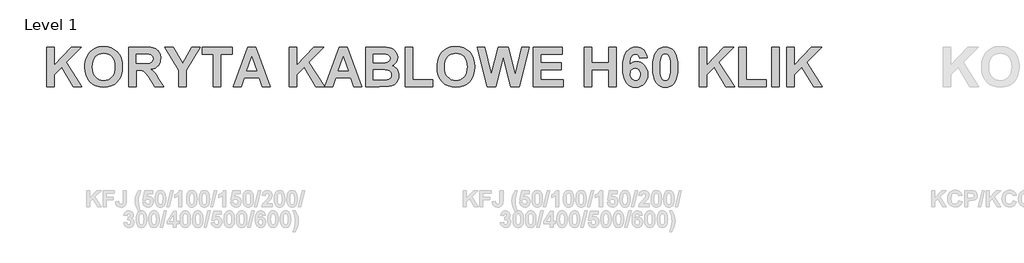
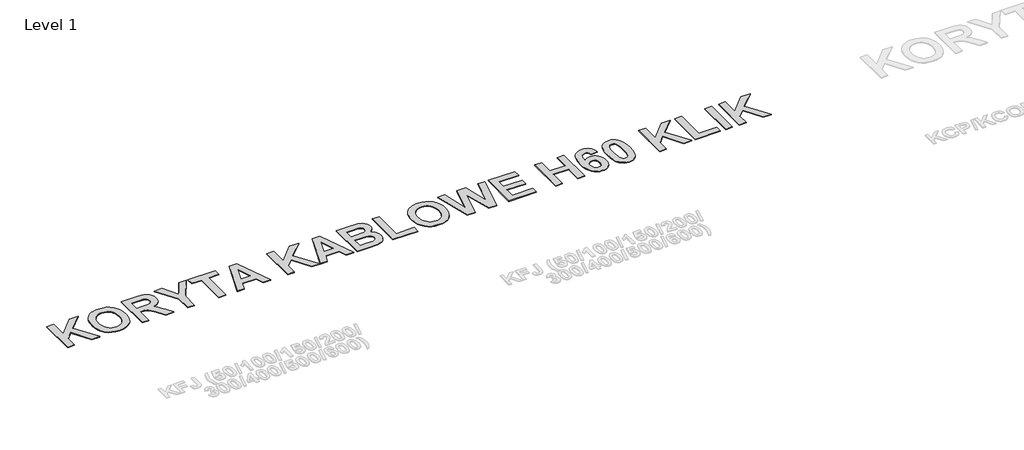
# One storey, part 13 of 42: 1 proxy.
"""IFC4 building model written with IfcOpenShell, lengths in millimetres."""

import ifcopenshell
import ifcopenshell.guid

model = None  # the IFC model being written
_history = None  # IfcOwnerHistory: only IFC2X3 demands one
_inside = {}  # id of a spatial element -> (the spatial element, [elements in it])
_under = {}  # id of a project, library or spatial element -> (it, [spatial elements below it])
_declared = {}  # id of a project -> (the project, [libraries it declares])
_typed = {}  # id of a type object -> (the type object, [elements of that type])
_made_of = {}  # id of a material, layer set ... -> (it, [elements and type objects made of it])


def new_model(schema):
    """Start an empty IFC model of exactly this schema.

    Asked for "IFC4X3", IfcOpenShell would pick the latest addendum, in which some entities
    have other attributes; the version numbers below select the first issue.
    IFC2X3 requires an IfcOwnerHistory on every rooted entity: one is made here for all.
    """
    global model, _history
    if schema == "IFC4X3":
        model = ifcopenshell.file(schema_version=(4, 3, 0, 0))
    else:
        model = ifcopenshell.file(schema=schema)
    _inside.clear()
    _under.clear()
    _declared.clear()
    _typed.clear()
    _made_of.clear()
    _history = None
    if model.schema == "IFC2X3":
        org = make("IfcOrganization", Name="unknown")
        user = make(
            "IfcPersonAndOrganization",
            ThePerson=make("IfcPerson", FamilyName="unknown"),
            TheOrganization=org,
        )
        app = make(
            "IfcApplication",
            ApplicationDeveloper=org,
            Version="unknown",
            ApplicationFullName="unknown",
            ApplicationIdentifier="unknown",
        )
        _history = make(
            "IfcOwnerHistory",
            OwningUser=user,
            OwningApplication=app,
            ChangeAction="ADDED",
            CreationDate=0,
        )
    return model


def make(cls, **values):
    """One entity of the class cls with the attributes given. An attribute that is None is left unset."""
    return model.create_entity(
        cls, **{name: value for name, value in values.items() if value is not None}
    )


def rooted(cls, **values):
    """An entity with a GlobalId (a new one), such as an element, a storey or a relation."""
    return make(cls, GlobalId=ifcopenshell.guid.new(), OwnerHistory=_history, **values)


def si_unit(unit_type, name, prefix=None):
    """IfcSIUnit, for example si_unit("LENGTHUNIT", "METRE", prefix="MILLI")."""
    return make("IfcSIUnit", UnitType=unit_type, Prefix=prefix, Name=name)


def assignment(units):
    """IfcUnitAssignment: the units of a project."""
    return None if units is None else make("IfcUnitAssignment", Units=units)


def point(xyz):
    """IfcCartesianPoint."""
    return None if xyz is None else make("IfcCartesianPoint", Coordinates=xyz)


def direction(xyz):
    """IfcDirection."""
    return None if xyz is None else make("IfcDirection", DirectionRatios=xyz)


def frame(location, z_axis=None, x_axis=None):
    """IfcAxis2Placement3D, a coordinate frame: its origin and axes. An axis left out is left unset."""
    return make(
        "IfcAxis2Placement3D",
        Location=point(location),
        Axis=direction(z_axis),
        RefDirection=direction(x_axis),
    )


def origin():
    """The frame at (0, 0, 0) with its axes left unset."""
    return frame((0.0, 0.0, 0.0))


def origin_with_axes():
    """The frame at (0, 0, 0) with the z axis (0, 0, 1) and the x axis (1, 0, 0) written out."""
    return frame((0.0, 0.0, 0.0), z_axis=(0.0, 0.0, 1.0), x_axis=(1.0, 0.0, 0.0))


def place(relative_to, where):
    """IfcLocalPlacement: puts the frame where relative to a parent placement (None: the world)."""
    return make(
        "IfcLocalPlacement", PlacementRelTo=relative_to, RelativePlacement=where
    )


def context(
    kind, dimensions, precision=None, world=None, true_north=None, identifier=None
):
    """IfcGeometricRepresentationContext, for example the 3D "Model" context."""
    return make(
        "IfcGeometricRepresentationContext",
        ContextIdentifier=identifier,
        ContextType=kind,
        CoordinateSpaceDimension=dimensions,
        Precision=precision,
        WorldCoordinateSystem=world,
        TrueNorth=true_north,
    )


def project(units=None, contexts=None):
    """IfcProject with its units and contexts."""
    return rooted(
        "IfcProject",
        Name="project",
        RepresentationContexts=contexts,
        UnitsInContext=assignment(units),
    )


def spatial(cls, under=None, at=None, **own):
    """A site, building, storey or space (cls), placed at a placement, below another one or the project."""
    s = rooted(cls, ObjectPlacement=at, **own)
    if under is not None:
        _under.setdefault(under.id(), (under, []))[1].append(s)
    return s


def polyline(points):
    """IfcPolyline through the points."""
    return make("IfcPolyline", Points=[point(p) for p in points])


def outline(outer, holes=None, kind="AREA"):
    """IfcArbitraryClosedProfileDef: a profile drawn as a closed curve; with holes, ...WithVoids."""
    if holes is None:
        return make("IfcArbitraryClosedProfileDef", ProfileType=kind, OuterCurve=outer)
    return make(
        "IfcArbitraryProfileDefWithVoids",
        ProfileType=kind,
        OuterCurve=outer,
        InnerCurves=holes,
    )


def extrude(swept, where, along, depth):
    """IfcExtrudedAreaSolid: the profile swept, set in the frame where, extruded along a direction by depth."""
    return make(
        "IfcExtrudedAreaSolid",
        SweptArea=swept,
        Position=where,
        ExtrudedDirection=direction(along),
        Depth=depth,
    )


def shape(context_of_items, identifier, shape_type, items):
    """IfcShapeRepresentation: the items that make up one representation, for example the "Body"."""
    return make(
        "IfcShapeRepresentation",
        ContextOfItems=context_of_items,
        RepresentationIdentifier=identifier,
        RepresentationType=shape_type,
        Items=items,
    )


def made_of(thing, what):
    """Note that an element or type object is made of a material, layer set ...; save() writes the relation."""
    if what is not None:
        _made_of.setdefault(what.id(), (what, []))[1].append(thing)
    return thing


def element(
    cls,
    number,
    at=None,
    inside=None,
    cuts=None,
    type_object=None,
    material=None,
    context=None,
    identifier="Body",
    shape_type=None,
    held_by="IfcProductDefinitionShape",
    body=None,
    shapes=None,
    **own,
):
    """One element of the class cls, such as IfcWall. Its Tag is "e" and its number.

    at: its placement. inside: the storey or other place that contains it. cuts: it is an
    opening in that element (IfcRelVoidsElement). A single representation is given by context,
    identifier, shape_type and body (its items); several are given by shapes. held_by: the class
    of the entity that holds the representations. save() writes the other relations.
    """
    e = rooted(cls, Tag="e%d" % number, ObjectPlacement=at, **own)
    if body is not None:
        shapes = [shape(context, identifier, shape_type, body)]
    if shapes is not None:
        e.Representation = make(held_by, Representations=shapes)
    if inside is not None:
        _inside.setdefault(inside.id(), (inside, []))[1].append(e)
    if cuts is not None:
        rooted(
            "IfcRelVoidsElement", RelatingBuildingElement=cuts, RelatedOpeningElement=e
        )
    if type_object is not None:
        _typed.setdefault(type_object.id(), (type_object, []))[1].append(e)
    return made_of(e, material)


def aggregate(whole, parts):
    """IfcRelAggregates: a whole, such as a stair, and the parts it consists of."""
    return rooted("IfcRelAggregates", RelatingObject=whole, RelatedObjects=parts)


def save(model, path):
    """Write the relations noted so far, then the file.

    IfcRelAggregates (storeys below a building ...), IfcRelContainedInSpatialStructure (elements
    in a storey), IfcRelDefinesByType, IfcRelAssociatesMaterial and IfcRelDeclares: one each for
    every whole, place, type object, material and project.
    """
    for whole, parts in _under.values():
        aggregate(whole, parts)
    for where, things in _inside.values():
        rooted(
            "IfcRelContainedInSpatialStructure",
            RelatedElements=things,
            RelatingStructure=where,
        )
    for kind, things in _typed.values():
        rooted("IfcRelDefinesByType", RelatedObjects=things, RelatingType=kind)
    for what, things in _made_of.values():
        rooted("IfcRelAssociatesMaterial", RelatedObjects=things, RelatingMaterial=what)
    for by, libraries in _declared.values():
        rooted("IfcRelDeclares", RelatingContext=by, RelatedDefinitions=libraries)
    model.write(path)


model = new_model("IFC4")

# Units and contexts
model_context = context("Model", 3, world=origin())
ifc_project = project(units=[si_unit("LENGTHUNIT", "METRE", prefix="MILLI")], contexts=[model_context])

# Site, building, storey
site = spatial("IfcSite", under=ifc_project)
building = spatial("IfcBuilding", under=site)
storey = spatial("IfcBuildingStorey", under=building, Name="Level 1", Elevation=0.0)

# Proxy
placement = place(None, origin())
element("IfcBuildingElementProxy", 1, Name="600mm Arial", ObjectType="600mm Arial", at=placement, inside=storey, context=model_context, shape_type="SweptSolid", body=[
    extrude(outline(polyline([(-29934.6648284, 6231.1737435), (-29934.6648284, 6843.3293835), (-29818.0637541, 6843.3293835), (-29818.0637541, 6564.2762916), (-29555.4076883, 6843.3293835), (-29395.3848598, 6843.3293835), (-29627.0687652, 6609.5199377), (-29385.6681036, 6231.1737435), (-29522.0063389, 6231.1737435), (-29702.8290987, 6532.8486583), (-29818.0637541, 6416.3994084), (-29818.0637541, 6231.1737435), (-29934.6648284, 6231.1737435)])), origin_with_axes(), (0.0, 0.0, 1.0), 10.0),
    extrude(outline(polyline([(-29341.9427008, 6533.4559556), (-29340.2251882, 6578.2631067), (-29335.0726505, 6619.312606), (-29326.4850877, 6656.6044535), (-29314.4624997, 6690.1386492), (-29290.2275433, 6734.3764591), (-29258.5152394, 6773.8697592), (-29221.3752163, 6806.1893603), (-29180.8571021, 6828.9060735), (-29151.6878555, 6839.4673525), (-29120.3551124, 6847.0111231), (-29086.8588728, 6851.5373855), (-29051.1991367, 6853.0461397), (-28988.0971556, 6847.8129453), (-28931.6374882, 6832.1133622), (-28881.8201347, 6805.9473903), (-28838.645095, 6769.3150297), (-28819.9635874, 6747.3609964), (-28803.7729476, 6723.3644517), (-28778.8642708, 6669.2438278), (-28763.9190647, 6606.9531578), (-28758.9373294, 6536.4924419), (-28763.8811087, 6466.5109215), (-28778.7124465, 6404.5950679), (-28803.4313428, 6350.744881), (-28819.4986255, 6326.8444125), (-28838.0377977, 6304.9603608), (-28880.9281669, 6268.4276349), (-28930.4988059, 6242.3328307), (-28986.7497148, 6226.6759482), (-29049.6808935, 6221.4569873), (-29113.2763037, 6226.6522256), (-29170.0016635, 6242.2379405), (-29219.8569731, 6268.214132), (-29262.8422324, 6304.5808), (-29297.4486873, 6350.056927), (-29322.1675837, 6403.3614953), (-29336.9989215, 6464.4945048), (-29341.9427008, 6533.4559556)]), holes=[polyline([(-29225.3416265, 6537.7070364), (-29222.2434616, 6489.2845688), (-29212.9489668, 6447.1058762), (-29197.4581421, 6411.1709585), (-29175.7709875, 6381.4798158), (-29149.310856, 6358.2317175), (-29119.5011006, 6341.625933), (-29086.3417212, 6331.6624623), (-29049.8327178, 6328.3413054), (-29013.3616705, 6331.6387398), (-28980.3161594, 6341.5310428), (-28950.6961843, 6358.0182146), (-28924.5017454, 6381.100255), (-28903.0802834, 6410.7771642), (-28887.7792391, 6447.0489421), (-28878.5986125, 6489.9155886), (-28875.5384037, 6539.3771039), (-28878.5179559, 6588.1506653), (-28887.4566124, 6630.3198689), (-28902.3543734, 6665.8847148), (-28923.2112387, 6694.845203), (-28949.0023943, 6717.2962236), (-28978.703026, 6733.3326669), (-29012.3131339, 6742.9545329), (-29049.8327178, 6746.1618216), (-29087.3902579, 6742.9165768), (-29121.1142339, 6733.1808426), (-29151.0046461, 6716.9546189), (-29177.0614942, 6694.2379057), (-29198.1840521, 6664.9832579), (-29213.2715934, 6629.1432304), (-29222.3241182, 6586.7178233), (-29225.3416265, 6537.7070364)])]), origin_with_axes(), (0.0, 0.0, 1.0), 10.0),
    extrude(outline(polyline([(-28661.7697675, 6231.1737435), (-28661.7697675, 6843.3293835), (-28404.2757285, 6843.3293835), (-28320.3927942, 6839.1921709), (-28288.4147977, 6834.0206551), (-28263.0791151, 6826.7805331), (-28242.1653156, 6816.8929745), (-28223.4529687, 6803.7791493), (-28206.9420744, 6787.4390573), (-28192.6326327, 6767.8726987), (-28181.0750067, 6745.9245961), (-28172.8195595, 6722.4392723), (-28167.8662912, 6697.4167273), (-28166.2152018, 6670.8569611), (-28168.6016903, 6637.7497713), (-28175.7611556, 6607.6600898), (-28187.6935979, 6580.5879165), (-28204.3990171, 6556.5332516), (-28225.8584352, 6536.074925), (-28252.0528742, 6519.7917672), (-28282.9823339, 6507.6837781), (-28318.6468145, 6499.7509576), (-28284.8279483, 6475.3831549), (-28257.4616154, 6448.7379876), (-28229.1463806, 6410.1366554), (-28192.4808084, 6349.9003582), (-28117.6314208, 6231.1737435), (-28253.8178318, 6231.1737435), (-28342.4832321, 6371.0039381), (-28385.3166671, 6424.6928116), (-28412.0946807, 6453.9759265), (-28431.4143248, 6468.3802584), (-28451.8726514, 6477.4327832), (-28479.0302258, 6482.2152491), (-28518.4476137, 6483.8094044), (-28545.1686932, 6483.8094044), (-28545.1686932, 6231.1737435), (-28661.7697675, 6231.1737435)]), holes=[polyline([(-28545.1686932, 6590.6937225), (-28449.0639015, 6590.6937225), (-28373.2086779, 6592.4586802), (-28332.3869151, 6597.7535532), (-28311.6249399, 6607.3564412), (-28295.9490794, 6622.0454437), (-28286.0994769, 6641.4220219), (-28282.8162761, 6665.0876371), (-28287.1432691, 6691.2963096), (-28300.124248, 6711.9254384), (-28321.0000914, 6726.4815947), (-28349.0116776, 6734.4713493), (-28443.7500505, 6736.4450654), (-28545.1686932, 6736.4450654), (-28545.1686932, 6590.6937225)])]), origin_with_axes(), (0.0, 0.0, 1.0), 10.0),
    extrude(outline(polyline([(-27884.4292723, 6231.1737435), (-27884.4292723, 6488.8196069), (-28103.0562866, 6843.3293835), (-27967.9326458, 6843.3293835), (-27826.4323838, 6591.7564927), (-27684.3248245, 6843.3293835), (-27549.2011837, 6843.3293835), (-27767.828198, 6487.908661), (-27767.828198, 6231.1737435), (-27884.4292723, 6231.1737435)])), origin_with_axes(), (0.0, 0.0, 1.0), 10.0),
    extrude(outline(polyline([(-27350.0076818, 6231.1737435), (-27350.0076818, 6736.4450654), (-27524.9092933, 6736.4450654), (-27524.9092933, 6843.3293835), (-27058.5049961, 6843.3293835), (-27058.5049961, 6736.4450654), (-27233.4066075, 6736.4450654), (-27233.4066075, 6231.1737435), (-27350.0076818, 6231.1737435)])), origin_with_axes(), (0.0, 0.0, 1.0), 10.0),
    extrude(outline(polyline([(-26465.7828685, 6231.1737435), (-26588.3050911, 6231.1737435), (-26636.2815748, 6367.2083302), (-26867.5100073, 6367.2083302), (-26914.8791937, 6231.1737435), (-27039.0714837, 6231.1737435), (-26815.5860914, 6843.3293835), (-26691.3938013, 6843.3293835), (-26465.7828685, 6231.1737435)]), holes=[polyline([(-26673.6303564, 6474.0926483), (-26752.4271761, 6697.5780406), (-26830.1612257, 6474.0926483), (-26673.6303564, 6474.0926483)])]), origin_with_axes(), (0.0, 0.0, 1.0), 10.0),
    extrude(outline(polyline([(-26174.2801828, 6231.1737435), (-26174.2801828, 6843.3293835), (-26057.6791086, 6843.3293835), (-26057.6791086, 6564.2762916), (-25795.0230428, 6843.3293835), (-25635.0002143, 6843.3293835), (-25866.6841197, 6609.5199377), (-25625.2834581, 6231.1737435), (-25761.6216934, 6231.1737435), (-25942.4444531, 6532.8486583), (-26057.6791086, 6416.3994084), (-26057.6791086, 6231.1737435), (-26174.2801828, 6231.1737435)])), origin_with_axes(), (0.0, 0.0, 1.0), 10.0),
    extrude(outline(polyline([(-25047.1364648, 6231.1737435), (-25169.6586874, 6231.1737435), (-25217.6351711, 6367.2083302), (-25448.8636035, 6367.2083302), (-25496.2327899, 6231.1737435), (-25620.42508, 6231.1737435), (-25396.9396876, 6843.3293835), (-25272.7473976, 6843.3293835), (-25047.1364648, 6231.1737435)]), holes=[polyline([(-25254.9839527, 6474.0926483), (-25333.7807724, 6697.5780406), (-25411.5148219, 6474.0926483), (-25254.9839527, 6474.0926483)])]), origin_with_axes(), (0.0, 0.0, 1.0), 10.0),
    extrude(outline(polyline([(-24988.8359276, 6843.3293835), (-24737.5666855, 6843.3293835), (-24672.4909883, 6841.8111403), (-24626.3553745, 6837.2564109), (-24591.6255623, 6827.8622813), (-24560.7672702, 6811.825838), (-24534.2549491, 6789.2799272), (-24512.56305, 6760.3573951), (-24498.101784, 6726.2918143), (-24493.2813619, 6688.3167574), (-24499.0317079, 6646.9446314), (-24516.2827457, 6609.0644647), (-24543.4023641, 6577.447051), (-24578.7584516, 6554.8631841), (-24554.9410121, 6545.3172303), (-24534.0461907, 6532.9245705), (-24516.0739873, 6517.6852048), (-24501.024402, 6499.5991333), (-24489.1346603, 6479.2262079), (-24480.6419877, 6457.126281), (-24475.5463841, 6433.2993525), (-24473.8478496, 6407.7454224), (-24478.7252057, 6366.7338792), (-24493.3572741, 6326.8989744), (-24516.4345701, 6291.5998211), (-24546.6476088, 6264.1955321), (-24584.3569732, 6245.2364707), (-24629.9232459, 6235.273), (-24779.6220209, 6231.1737435), (-24988.8359276, 6231.1737435), (-24988.8359276, 6843.3293835)]), holes=[polyline([(-24872.2348534, 6493.5261606), (-24872.2348534, 6338.0580616), (-24748.9535092, 6338.0580616), (-24657.5552713, 6341.7018452), (-24630.5684992, 6349.8434241), (-24609.1233147, 6364.8550533), (-24595.1175216, 6386.4330841), (-24590.4489239, 6414.273868), (-24594.0547513, 6438.4139341), (-24604.8722338, 6458.6065681), (-24622.4838544, 6474.3583408), (-24646.4720963, 6485.1758233), (-24689.5902019, 6491.4385763), (-24764.5914137, 6493.5261606), (-24872.2348534, 6493.5261606)]), polyline([(-24872.2348534, 6736.4450654), (-24872.2348534, 6600.4104787), (-24783.2658045, 6600.4104787), (-24684.5799994, 6602.3841948), (-24653.5129489, 6609.4819816), (-24629.8473337, 6623.4877747), (-24614.8736606, 6643.7183647), (-24609.8824362, 6669.4905423), (-24614.1904512, 6694.1430155), (-24627.114496, 6713.7473302), (-24648.5027465, 6727.4684527), (-24678.2033782, 6734.4713493), (-24794.1971552, 6736.4450654), (-24872.2348534, 6736.4450654)])]), origin_with_axes(), (0.0, 0.0, 1.0), 10.0),
    extrude(outline(polyline([(-24376.6802877, 6231.1737435), (-24376.6802877, 6843.3293835), (-24260.0792134, 6843.3293835), (-24260.0792134, 6338.0580616), (-23949.1430153, 6338.0580616), (-23949.1430153, 6231.1737435), (-24376.6802877, 6231.1737435)])), origin_with_axes(), (0.0, 0.0, 1.0), 10.0),
    extrude(outline(polyline([(-23881.125722, 6533.4559556), (-23879.4082094, 6578.2631067), (-23874.2556717, 6619.312606), (-23865.6681089, 6656.6044535), (-23853.6455209, 6690.1386492), (-23829.4105645, 6734.3764591), (-23797.6982606, 6773.8697592), (-23760.5582375, 6806.1893603), (-23720.0401233, 6828.9060735), (-23690.8708767, 6839.4673525), (-23659.5381335, 6847.0111231), (-23626.0418939, 6851.5373855), (-23590.3821579, 6853.0461397), (-23527.2801767, 6847.8129453), (-23470.8205094, 6832.1133622), (-23421.0031559, 6805.9473903), (-23377.8281162, 6769.3150297), (-23359.1466086, 6747.3609964), (-23342.9559687, 6723.3644517), (-23318.047292, 6669.2438278), (-23303.1020859, 6606.9531578), (-23298.1203506, 6536.4924419), (-23303.0641298, 6466.5109215), (-23317.8954677, 6404.5950679), (-23342.614364, 6350.744881), (-23358.6816467, 6326.8444125), (-23377.2208189, 6304.9603608), (-23420.1111881, 6268.4276349), (-23469.6818271, 6242.3328307), (-23525.9327359, 6226.6759482), (-23588.8639147, 6221.4569873), (-23652.4593248, 6226.6522256), (-23709.1846847, 6242.2379405), (-23759.0399943, 6268.214132), (-23802.0252536, 6304.5808), (-23836.6317085, 6350.056927), (-23861.3506049, 6403.3614953), (-23876.1819427, 6464.4945048), (-23881.125722, 6533.4559556)]), holes=[polyline([(-23764.5246477, 6537.7070364), (-23761.4264828, 6489.2845688), (-23752.1319879, 6447.1058762), (-23736.6411633, 6411.1709585), (-23714.9540087, 6381.4798158), (-23688.4938772, 6358.2317175), (-23658.6841218, 6341.625933), (-23625.5247424, 6331.6624623), (-23589.015739, 6328.3413054), (-23552.5446917, 6331.6387398), (-23519.4991806, 6341.5310428), (-23489.8792055, 6358.0182146), (-23463.6847666, 6381.100255), (-23442.2633046, 6410.7771642), (-23426.9622603, 6447.0489421), (-23417.7816337, 6489.9155886), (-23414.7214249, 6539.3771039), (-23417.700977, 6588.1506653), (-23426.6396336, 6630.3198689), (-23441.5373946, 6665.8847148), (-23462.3942599, 6694.845203), (-23488.1854155, 6717.2962236), (-23517.8860472, 6733.3326669), (-23551.4961551, 6742.9545329), (-23589.015739, 6746.1618216), (-23626.5732791, 6742.9165768), (-23660.2972551, 6733.1808426), (-23690.1876672, 6716.9546189), (-23716.2445154, 6694.2379057), (-23737.3670733, 6664.9832579), (-23752.4546146, 6629.1432304), (-23761.5071394, 6586.7178233), (-23764.5246477, 6537.7070364)])]), origin_with_axes(), (0.0, 0.0, 1.0), 10.0),
    extrude(outline(polyline([(-23105.1516456, 6231.1737435), (-23259.2533258, 6843.3293835), (-23139.6157652, 6843.3293835), (-23040.6263115, 6422.7760296), (-22934.1974664, 6843.3293835), (-22777.3629485, 6843.3293835), (-22671.3895763, 6415.7921111), (-22572.4001226, 6843.3293835), (-22452.762562, 6843.3293835), (-22604.5868775, 6231.1737435), (-22742.5951803, 6231.1737435), (-22856.0079439, 6688.7722303), (-22971.6980723, 6231.1737435), (-23105.1516456, 6231.1737435)])), origin_with_axes(), (0.0, 0.0, 1.0), 10.0),
    extrude(outline(polyline([(-22394.4620249, 6231.1737435), (-22394.4620249, 6843.3293835), (-21937.774484, 6843.3293835), (-21937.774484, 6736.4450654), (-22277.8609506, 6736.4450654), (-22277.8609506, 6600.4104787), (-21957.2079963, 6600.4104787), (-21957.2079963, 6493.5261606), (-22277.8609506, 6493.5261606), (-22277.8609506, 6338.0580616), (-21928.0577278, 6338.0580616), (-21928.0577278, 6231.1737435), (-22394.4620249, 6231.1737435)])), origin_with_axes(), (0.0, 0.0, 1.0), 10.0),
    extrude(outline(polyline([(-21597.6880173, 6231.1737435), (-21597.6880173, 6843.3293835), (-21481.086943, 6843.3293835), (-21481.086943, 6600.4104787), (-21218.7345259, 6600.4104787), (-21218.7345259, 6843.3293835), (-21102.1334516, 6843.3293835), (-21102.1334516, 6231.1737435), (-21218.7345259, 6231.1737435), (-21218.7345259, 6493.5261606), (-21481.086943, 6493.5261606), (-21481.086943, 6231.1737435), (-21597.6880173, 6231.1737435)])), origin_with_axes(), (0.0, 0.0, 1.0), 10.0),
    extrude(outline(polyline([(-20626.0123983, 6680.8773659), (-20742.6134726, 6668.4277721), (-20749.7492154, 6698.6597889), (-20763.2615795, 6719.8203028), (-20782.4673554, 6732.2888748), (-20806.6833337, 6736.4450654), (-20823.687657, 6734.4286487), (-20839.3255615, 6728.3793986), (-20853.5970472, 6718.2973152), (-20866.502114, 6704.1823984), (-20877.5947781, 6683.6149481), (-20886.4290554, 6654.1752644), (-20893.0049461, 6615.8633473), (-20897.32245, 6568.6791968), (-20874.6057368, 6591.0637943), (-20849.2700542, 6607.0527925), (-20821.3154021, 6616.6461915), (-20790.7417806, 6619.8439911), (-20756.054669, 6616.427944), (-20723.9580598, 6606.1798027), (-20694.451953, 6589.0995672), (-20667.5363486, 6565.1872375), (-20645.1185395, 6535.8756556), (-20629.1058187, 6502.5976635), (-20619.4981863, 6465.3532611), (-20616.2956421, 6424.1424485), (-20619.5693539, 6380.5546364), (-20629.3904893, 6341.4930867), (-20645.7590483, 6306.9577995), (-20668.675031, 6276.9487746), (-20696.7340623, 6252.6711177), (-20728.5317673, 6235.3299341), (-20764.0681462, 6224.925224), (-20803.3431988, 6221.4569873), (-20845.4175122, 6225.9358046), (-20883.5823495, 6239.3722565), (-20917.8377107, 6261.7663431), (-20948.1835957, 6293.1180642), (-20973.0258493, 6334.6704816), (-20990.7703162, 6387.6666567), (-21001.4169963, 6452.1065896), (-21004.9658897, 6527.9902803), (-21001.2604275, 6605.8761541), (-20990.1440409, 6672.0715556), (-20971.6167299, 6726.5764849), (-20945.6784945, 6769.3909418), (-20913.8191108, 6801.7390101), (-20877.5283549, 6824.8447731), (-20836.8062268, 6838.7082309), (-20791.6527265, 6843.3293835), (-20759.8360434, 6840.7293921), (-20730.8850442, 6832.9294179), (-20704.799729, 6819.9294609), (-20681.5800978, 6801.729521), (-20661.7670246, 6778.5763129), (-20645.9013836, 6750.716551), (-20633.9831749, 6718.1502354), (-20626.0123983, 6680.8773659)]), holes=[polyline([(-20888.3648154, 6426.7234618), (-20886.7896382, 6404.4669661), (-20882.0641063, 6384.914841), (-20874.18822, 6368.0670865), (-20863.1619791, 6353.9237026), (-20836.175207, 6334.7369047), (-20821.3438692, 6329.9402052), (-20805.6205635, 6328.3413054), (-20777.0775922, 6333.5792443), (-20753.6966476, 6349.2930609), (-20744.5966777, 6361.4484952), (-20738.0966992, 6376.9630424), (-20732.8967164, 6418.0694759), (-20734.2963468, 6441.01867), (-20738.495238, 6460.6751744), (-20745.4933901, 6477.0389889), (-20755.2908029, 6490.1101135), (-20780.4746613, 6507.2472831), (-20811.2380632, 6512.959673), (-20841.0905192, 6507.4939977), (-20865.9707289, 6491.0969716), (-20875.7681418, 6478.8751142), (-20882.7662938, 6464.0722434), (-20888.3648154, 6426.7234618)])]), origin_with_axes(), (0.0, 0.0, 1.0), 10.0),
    extrude(outline(polyline([(-20344.2264688, 6843.3293835), (-20303.1105464, 6839.3819513), (-20266.7581118, 6827.5396547), (-20235.1691652, 6807.8024937), (-20208.3437064, 6780.1704682), (-20182.7707983, 6736.6633128), (-20164.5044354, 6680.8394098), (-20153.5446176, 6612.6987593), (-20149.891345, 6532.2413611), (-20153.5635956, 6451.8598751), (-20164.5803475, 6383.6433123), (-20182.9416007, 6327.5916728), (-20208.6473551, 6283.7049567), (-20235.3399675, 6256.4714701), (-20266.834024, 6237.0189797), (-20303.1295244, 6225.3474854), (-20344.2264688, 6221.4569873), (-20385.7646526, 6225.7270462), (-20423.0802226, 6238.5372228), (-20456.1731789, 6259.8875172), (-20485.0435214, 6289.7779293), (-20508.4576775, 6330.6281592), (-20525.1820748, 6384.8579068), (-20535.2167131, 6452.4671723), (-20538.5615926, 6533.4559556), (-20534.889342, 6613.4389028), (-20523.8725901, 6681.370795), (-20505.5113369, 6737.2516321), (-20479.8055825, 6781.0814141), (-20453.11297, 6808.3149007), (-20421.6189136, 6827.7673911), (-20385.3234132, 6839.4388854), (-20344.2264688, 6843.3293835)]), holes=[polyline([(-20344.2264688, 6736.4450654), (-20364.7986635, 6733.2377767), (-20383.0934936, 6723.6159107), (-20398.2759251, 6705.6816635), (-20409.5109244, 6677.537231), (-20418.8481198, 6619.5782986), (-20421.9605183, 6532.2413611), (-20419.1897246, 6446.062084), (-20410.8773433, 6391.8797814), (-20398.3328592, 6360.0725873), (-20382.8657571, 6341.0186357), (-20364.7417294, 6331.510638), (-20344.2264688, 6328.3413054), (-20323.654274, 6331.5485941), (-20305.359444, 6341.1704601), (-20290.1770125, 6359.1047073), (-20278.9420131, 6387.2491398), (-20269.6048177, 6444.9044236), (-20266.4924193, 6532.2413611), (-20269.263213, 6618.325748), (-20277.5755943, 6672.5270286), (-20290.1200784, 6704.4291129), (-20305.5871805, 6723.6159107), (-20323.7112082, 6733.2377767), (-20344.2264688, 6736.4450654)])]), origin_with_axes(), (0.0, 0.0, 1.0), 10.0),
    extrude(outline(polyline([(-19819.5216345, 6231.1737435), (-19819.5216345, 6843.3293835), (-19702.9205602, 6843.3293835), (-19702.9205602, 6564.2762916), (-19440.2644945, 6843.3293835), (-19280.241666, 6843.3293835), (-19511.9255714, 6609.5199377), (-19270.5249098, 6231.1737435), (-19406.8631451, 6231.1737435), (-19587.6859048, 6532.8486583), (-19702.9205602, 6416.3994084), (-19702.9205602, 6231.1737435), (-19819.5216345, 6231.1737435)])), origin_with_axes(), (0.0, 0.0, 1.0), 10.0),
    extrude(outline(polyline([(-19207.3659946, 6231.1737435), (-19207.3659946, 6843.3293835), (-19090.7649203, 6843.3293835), (-19090.7649203, 6338.0580616), (-18779.8287222, 6338.0580616), (-18779.8287222, 6231.1737435), (-19207.3659946, 6231.1737435)])), origin_with_axes(), (0.0, 0.0, 1.0), 10.0),
    extrude(outline(polyline([(-18692.3779165, 6231.1737435), (-18692.3779165, 6843.3293835), (-18575.7768422, 6843.3293835), (-18575.7768422, 6231.1737435), (-18692.3779165, 6231.1737435)])), origin_with_axes(), (0.0, 0.0, 1.0), 10.0),
    extrude(outline(polyline([(-18459.1757679, 6231.1737435), (-18459.1757679, 6843.3293835), (-18342.5746936, 6843.3293835), (-18342.5746936, 6564.2762916), (-18079.9186279, 6843.3293835), (-17919.8957994, 6843.3293835), (-18151.5797048, 6609.5199377), (-17910.1790432, 6231.1737435), (-18046.5172785, 6231.1737435), (-18227.3400382, 6532.8486583), (-18342.5746936, 6416.3994084), (-18342.5746936, 6231.1737435), (-18459.1757679, 6231.1737435)])), origin_with_axes(), (0.0, 0.0, 1.0), 10.0),
])

save(model, "model.ifc")
